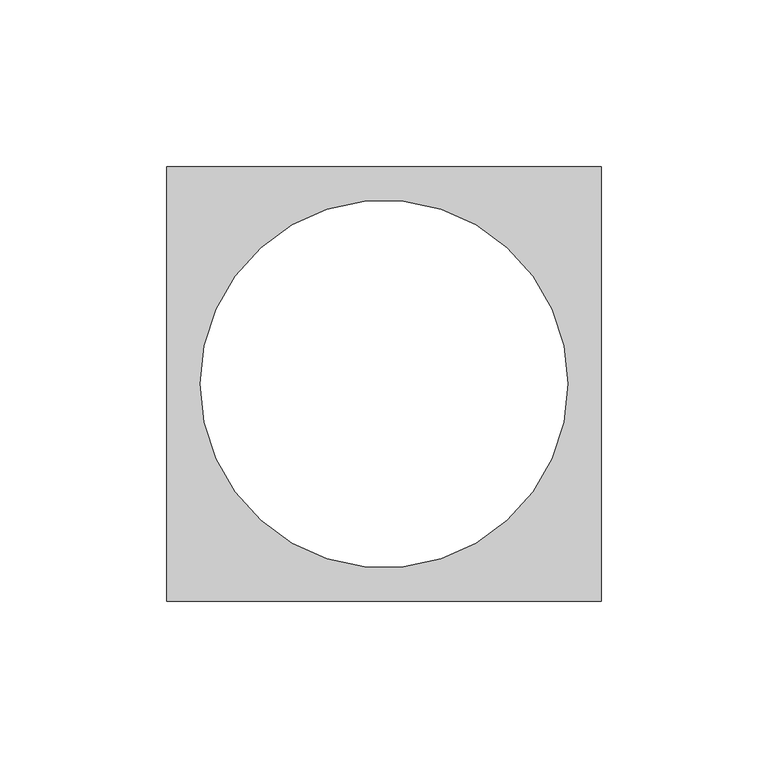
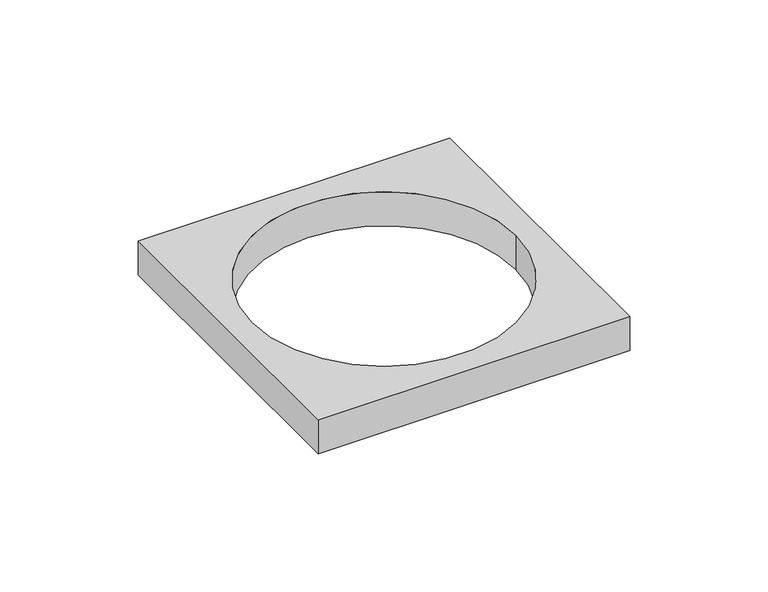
"""IFC4 building model written with IfcOpenShell, lengths in millimetres: duct fitting geometry, Суппорт для розеток Р17 - для кабель-канала DLP - белый : 130мм."""

from ifc_helpers import new_model, si_unit, point, origin, origin_with_axes, origin_2d, place, context, project, spatial, polyline, circle_curve, trimmed, segment, composite_curve, outline, extrude, source, transform, mapped, element, save


def duct_fitting_0355683d(model_context):
    return source(origin(), model_context, "Body", "SweptSolid", [
        extrude(outline(polyline([(65.0, 65.0), (65.0, -65.0), (-65.0, -65.0), (-65.0, 65.0), (65.0, 65.0)]), holes=[composite_curve([segment(trimmed(circle_curve(origin_2d(), 55.0), [point((-55.0, 0.0))], [point((55.0, 0.0))], True, "CARTESIAN"), True, "CONTINUOUS"), segment(trimmed(circle_curve(origin_2d(), 55.0), [point((55.0, 0.0))], [point((-55.0, 0.0))], True, "CARTESIAN"), True, "CONTINUOUS")], self_intersect=False)]), origin_with_axes(), (0.0, 0.0, 1.0), 15.0),
    ])


if __name__ == "__main__":
    model = new_model("IFC4")
    model_context = context("Model", 3, world=origin())
    ifc_project = project(units=[si_unit("LENGTHUNIT", "METRE", prefix="MILLI")], contexts=[model_context])
    site = spatial("IfcSite", under=ifc_project)
    building = spatial("IfcBuilding", under=site)
    placement = place(None, origin())
    duct_fitting_shape = duct_fitting_0355683d(model_context)
    element("IfcDuctFitting", 1, ObjectType="Суппорт для розеток Р17 - для кабель-канала DLP - белый : 130мм", at=placement, inside=building, context=model_context, shape_type="MappedRepresentation", body=[
        mapped(duct_fitting_shape, transform((0.0, 0.0, 0.0), x_axis=(1.0, 0.0, 0.0), y_axis=(0.0, 1.0, 0.0), z_axis=(0.0, 0.0, 1.0))),
    ])
    save(model, "model.ifc")
